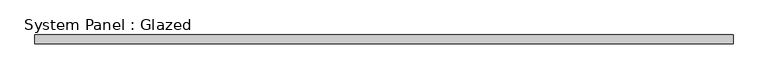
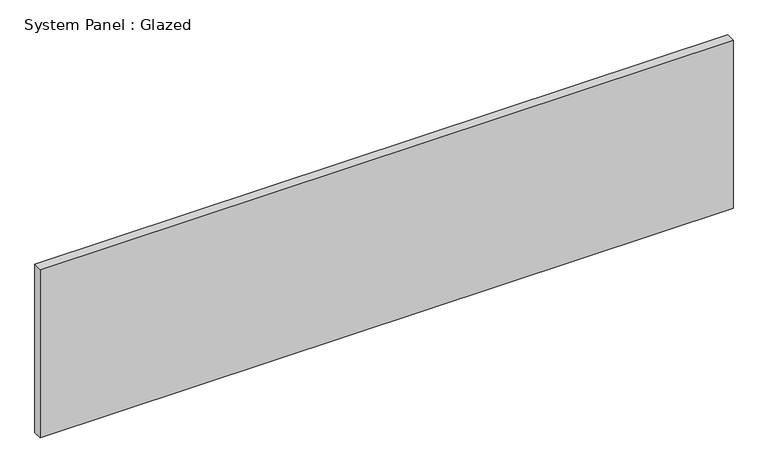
"""IFC4 building model written with IfcOpenShell, lengths in millimetres: plate geometry, System Panel : Glazed."""

from ifc_helpers import new_model, si_unit, origin, origin_with_axes, place, context, project, spatial, polyline, outline, extrude, source, transform, mapped, element, save


def system_panel_glazed_d60ff87d(model_context):
    return source(origin(), model_context, "Body", "SweptSolid", [
        extrude(outline(polyline([(975.0, -49.5), (-975.0, -49.5), (-975.0, -24.5), (975.0, -24.5), (975.0, -49.5)])), origin_with_axes(), (0.0, 0.0, 1.0), 500.0),
    ])


if __name__ == "__main__":
    model = new_model("IFC4")
    model_context = context("Model", 3, world=origin())
    ifc_project = project(units=[si_unit("LENGTHUNIT", "METRE", prefix="MILLI")], contexts=[model_context])
    site = spatial("IfcSite", under=ifc_project)
    building = spatial("IfcBuilding", under=site)
    placement = place(None, origin())
    system_panel_glazed_shape = system_panel_glazed_d60ff87d(model_context)
    element("IfcPlate", 1, ObjectType="System Panel : Glazed", at=placement, inside=building, context=model_context, shape_type="MappedRepresentation", body=[
        mapped(system_panel_glazed_shape, transform((0.0, 0.0, 0.0), x_axis=(1.0, 0.0, 0.0), y_axis=(0.0, 1.0, 0.0), z_axis=(0.0, 0.0, 1.0))),
    ])
    save(model, "model.ifc")
